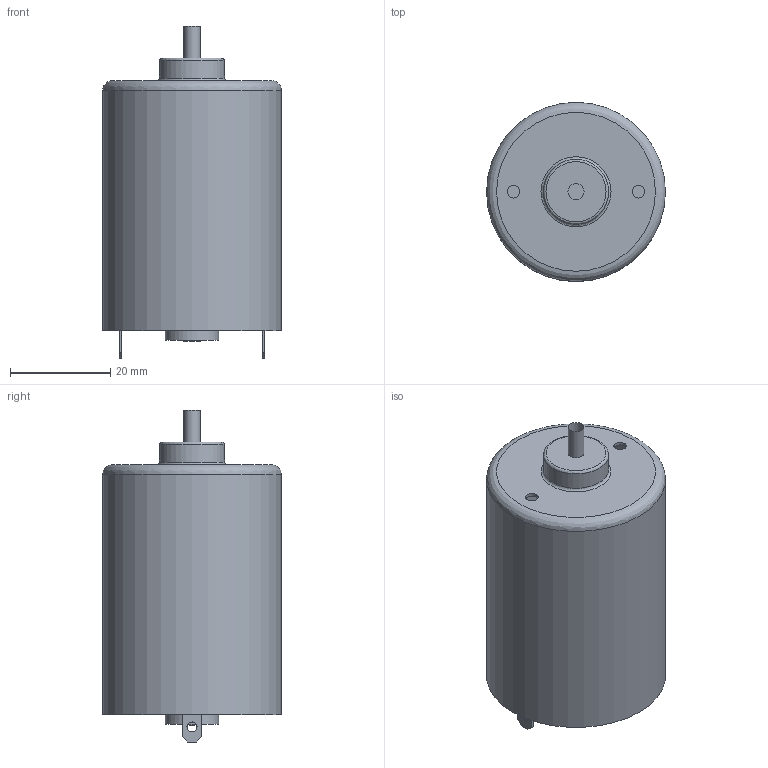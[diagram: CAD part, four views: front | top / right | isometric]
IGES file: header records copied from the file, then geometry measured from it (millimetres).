
Global section: file name: No Iges File Name specified; native system: AutoDesk Inventor R5.0; preprocessor: AutoDesk Inventor Iges Exporter R5.0; author: No Author specified; organization: No Organization specified; date: 20070115.083430; units: millimetre
Bounding box: 35.75 x 35.75 x 66.35 mm (x, y, z)
Surface area: 15190.8 mm2 (no closed solid volume)
Topology: 0 solids, 0 shells, 62 faces, 252 edges, 234 vertices
Faces by surface type: plane 31, revolution 23, bspline 8
